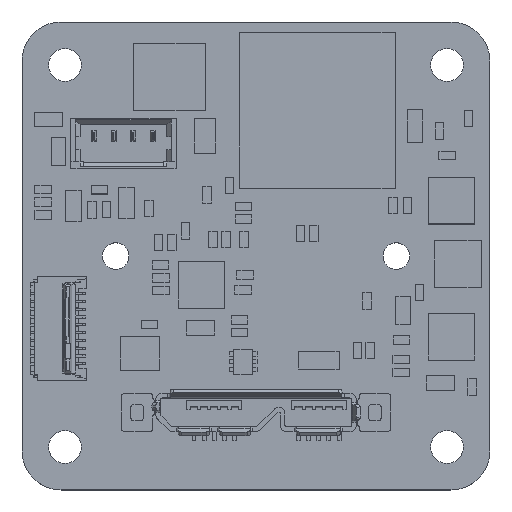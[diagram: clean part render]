
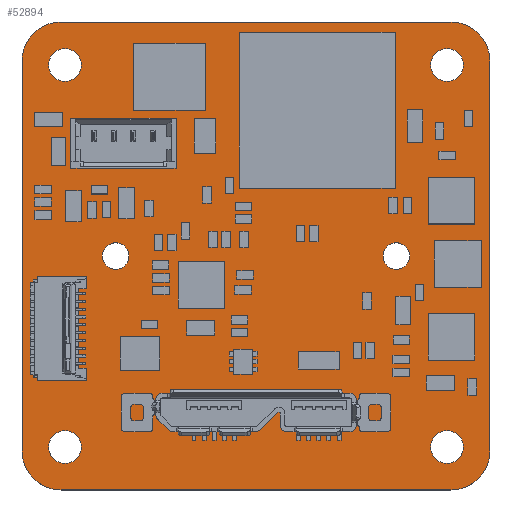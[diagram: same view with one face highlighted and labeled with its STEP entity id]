
A CAD part, top view. The second image highlights one B-rep face of the part: STEP entity #52894.
In plain terms, the highlighted planar face has unit normal (0, 0, 1).
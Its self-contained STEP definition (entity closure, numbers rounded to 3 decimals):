
#52099 = VERTEX_POINT('',#52100);
#52100 = CARTESIAN_POINT('',(0.,2.5,0.));
#52106 = EDGE_CURVE('',#52099,#52107,#52109,.T.);
#52107 = VERTEX_POINT('',#52108);
#52108 = CARTESIAN_POINT('',(2.5,0.,0.));
#52109 = CIRCLE('',#52110,2.499);
#52110 = AXIS2_PLACEMENT_3D('',#52111,#52112,#52113);
#52111 = CARTESIAN_POINT('',(2.499,2.499,0.));
#52112 = DIRECTION('',(0.,0.,1.));
#52113 = DIRECTION('',(-1.,0.,0.));
#52139 = EDGE_CURVE('',#52107,#52140,#52142,.T.);
#52140 = VERTEX_POINT('',#52141);
#52141 = CARTESIAN_POINT('',(27.5,0.,0.));
#52142 = LINE('',#52143,#52144);
#52143 = CARTESIAN_POINT('',(2.5,0.,0.));
#52144 = VECTOR('',#52145,1.);
#52145 = DIRECTION('',(1.,0.,0.));
#52170 = EDGE_CURVE('',#52140,#52171,#52173,.T.);
#52171 = VERTEX_POINT('',#52172);
#52172 = CARTESIAN_POINT('',(30.,2.5,0.));
#52173 = CIRCLE('',#52174,2.499);
#52174 = AXIS2_PLACEMENT_3D('',#52175,#52176,#52177);
#52175 = CARTESIAN_POINT('',(27.501,2.499,0.));
#52176 = DIRECTION('',(0.,0.,1.));
#52177 = DIRECTION('',(0.,-1.,0.));
#52203 = EDGE_CURVE('',#52171,#52204,#52206,.T.);
#52204 = VERTEX_POINT('',#52205);
#52205 = CARTESIAN_POINT('',(30.,27.5,0.));
#52206 = LINE('',#52207,#52208);
#52207 = CARTESIAN_POINT('',(30.,2.5,0.));
#52208 = VECTOR('',#52209,1.);
#52209 = DIRECTION('',(0.,1.,0.));
#52234 = EDGE_CURVE('',#52204,#52235,#52237,.T.);
#52235 = VERTEX_POINT('',#52236);
#52236 = CARTESIAN_POINT('',(27.5,30.,0.));
#52237 = CIRCLE('',#52238,2.499);
#52238 = AXIS2_PLACEMENT_3D('',#52239,#52240,#52241);
#52239 = CARTESIAN_POINT('',(27.501,27.501,0.));
#52240 = DIRECTION('',(0.,0.,1.));
#52241 = DIRECTION('',(1.,0.,0.));
#52267 = EDGE_CURVE('',#52235,#52268,#52270,.T.);
#52268 = VERTEX_POINT('',#52269);
#52269 = CARTESIAN_POINT('',(2.5,30.006,0.));
#52270 = LINE('',#52271,#52272);
#52271 = CARTESIAN_POINT('',(27.5,30.,0.));
#52272 = VECTOR('',#52273,1.);
#52273 = DIRECTION('',(-1.,0.,0.));
#52298 = EDGE_CURVE('',#52268,#52299,#52301,.T.);
#52299 = VERTEX_POINT('',#52300);
#52300 = CARTESIAN_POINT('',(0.,27.5,0.));
#52301 = CIRCLE('',#52302,2.496);
#52302 = AXIS2_PLACEMENT_3D('',#52303,#52304,#52305);
#52303 = CARTESIAN_POINT('',(2.496,27.51,0.));
#52304 = DIRECTION('',(0.,0.,1.));
#52305 = DIRECTION('',(0.002,1.,0.));
#52331 = EDGE_CURVE('',#52299,#52099,#52332,.T.);
#52332 = LINE('',#52333,#52334);
#52333 = CARTESIAN_POINT('',(0.,27.5,0.));
#52334 = VECTOR('',#52335,1.);
#52335 = DIRECTION('',(0.,-1.,0.));
#52355 = VERTEX_POINT('',#52356);
#52356 = CARTESIAN_POINT('',(3.8,2.75,0.));
#52362 = EDGE_CURVE('',#52355,#52355,#52363,.T.);
#52363 = CIRCLE('',#52364,1.05);
#52364 = AXIS2_PLACEMENT_3D('',#52365,#52366,#52367);
#52365 = CARTESIAN_POINT('',(2.75,2.75,0.));
#52366 = DIRECTION('',(0.,0.,1.));
#52367 = DIRECTION('',(1.,0.,0.));
#52388 = VERTEX_POINT('',#52389);
#52389 = CARTESIAN_POINT('',(6.85,15.,0.));
#52395 = EDGE_CURVE('',#52388,#52388,#52396,.T.);
#52396 = CIRCLE('',#52397,0.85);
#52397 = AXIS2_PLACEMENT_3D('',#52398,#52399,#52400);
#52398 = CARTESIAN_POINT('',(6.,15.,0.));
#52399 = DIRECTION('',(0.,0.,1.));
#52400 = DIRECTION('',(1.,0.,0.));
#52421 = VERTEX_POINT('',#52422);
#52422 = CARTESIAN_POINT('',(7.375,22.7,0.));
#52428 = EDGE_CURVE('',#52421,#52421,#52429,.T.);
#52429 = CIRCLE('',#52430,0.25);
#52430 = AXIS2_PLACEMENT_3D('',#52431,#52432,#52433);
#52431 = CARTESIAN_POINT('',(7.125,22.7,0.));
#52432 = DIRECTION('',(0.,0.,1.));
#52433 = DIRECTION('',(1.,0.,0.));
#52454 = VERTEX_POINT('',#52455);
#52455 = CARTESIAN_POINT('',(3.8,27.25,0.));
#52461 = EDGE_CURVE('',#52454,#52454,#52462,.T.);
#52462 = CIRCLE('',#52463,1.05);
#52463 = AXIS2_PLACEMENT_3D('',#52464,#52465,#52466);
#52464 = CARTESIAN_POINT('',(2.75,27.25,0.));
#52465 = DIRECTION('',(0.,0.,1.));
#52466 = DIRECTION('',(1.,0.,0.));
#52487 = VERTEX_POINT('',#52488);
#52488 = CARTESIAN_POINT('',(6.125,22.7,0.));
#52494 = EDGE_CURVE('',#52487,#52487,#52495,.T.);
#52495 = CIRCLE('',#52496,0.25);
#52496 = AXIS2_PLACEMENT_3D('',#52497,#52498,#52499);
#52497 = CARTESIAN_POINT('',(5.875,22.7,0.));
#52498 = DIRECTION('',(0.,0.,1.));
#52499 = DIRECTION('',(1.,0.,0.));
#52520 = VERTEX_POINT('',#52521);
#52521 = CARTESIAN_POINT('',(4.875,22.7,0.));
#52527 = EDGE_CURVE('',#52520,#52520,#52528,.T.);
#52528 = CIRCLE('',#52529,0.25);
#52529 = AXIS2_PLACEMENT_3D('',#52530,#52531,#52532);
#52530 = CARTESIAN_POINT('',(4.625,22.7,0.));
#52531 = DIRECTION('',(0.,0.,1.));
#52532 = DIRECTION('',(1.,0.,0.));
#52553 = VERTEX_POINT('',#52554);
#52554 = CARTESIAN_POINT('',(15.4,5.185,0.));
#52560 = EDGE_CURVE('',#52553,#52553,#52561,.T.);
#52561 = CIRCLE('',#52562,0.4);
#52562 = AXIS2_PLACEMENT_3D('',#52563,#52564,#52565);
#52563 = CARTESIAN_POINT('',(15.,5.185,0.));
#52564 = DIRECTION('',(0.,0.,1.));
#52565 = DIRECTION('',(1.,0.,0.));
#52586 = VERTEX_POINT('',#52587);
#52587 = CARTESIAN_POINT('',(28.3,2.75,0.));
#52593 = EDGE_CURVE('',#52586,#52586,#52594,.T.);
#52594 = CIRCLE('',#52595,1.05);
#52595 = AXIS2_PLACEMENT_3D('',#52596,#52597,#52598);
#52596 = CARTESIAN_POINT('',(27.25,2.75,0.));
#52597 = DIRECTION('',(0.,0.,1.));
#52598 = DIRECTION('',(1.,0.,0.));
#52619 = VERTEX_POINT('',#52620);
#52620 = CARTESIAN_POINT('',(14.425,5.85,0.));
#52626 = EDGE_CURVE('',#52619,#52627,#52629,.T.);
#52627 = VERTEX_POINT('',#52628);
#52628 = CARTESIAN_POINT('',(15.575,5.85,0.));
#52629 = LINE('',#52630,#52631);
#52630 = CARTESIAN_POINT('',(14.425,5.85,0.));
#52631 = VECTOR('',#52632,1.);
#52632 = DIRECTION('',(1.,0.,0.));
#52657 = EDGE_CURVE('',#52627,#52658,#52660,.T.);
#52658 = VERTEX_POINT('',#52659);
#52659 = CARTESIAN_POINT('',(15.575,6.3,0.));
#52660 = CIRCLE('',#52661,0.225);
#52661 = AXIS2_PLACEMENT_3D('',#52662,#52663,#52664);
#52662 = CARTESIAN_POINT('',(15.575,6.075,0.));
#52663 = DIRECTION('',(0.,0.,1.));
#52664 = DIRECTION('',(0.,-1.,0.));
#52690 = EDGE_CURVE('',#52658,#52691,#52693,.T.);
#52691 = VERTEX_POINT('',#52692);
#52692 = CARTESIAN_POINT('',(14.425,6.3,0.));
#52693 = LINE('',#52694,#52695);
#52694 = CARTESIAN_POINT('',(15.575,6.3,0.));
#52695 = VECTOR('',#52696,1.);
#52696 = DIRECTION('',(-1.,0.,0.));
#52721 = EDGE_CURVE('',#52691,#52619,#52722,.T.);
#52722 = CIRCLE('',#52723,0.225);
#52723 = AXIS2_PLACEMENT_3D('',#52724,#52725,#52726);
#52724 = CARTESIAN_POINT('',(14.425,6.075,0.));
#52725 = DIRECTION('',(0.,0.,1.));
#52726 = DIRECTION('',(0.,1.,0.));
#52747 = VERTEX_POINT('',#52748);
#52748 = CARTESIAN_POINT('',(8.625,22.7,0.));
#52754 = EDGE_CURVE('',#52747,#52747,#52755,.T.);
#52755 = CIRCLE('',#52756,0.25);
#52756 = AXIS2_PLACEMENT_3D('',#52757,#52758,#52759);
#52757 = CARTESIAN_POINT('',(8.375,22.7,0.));
#52758 = DIRECTION('',(0.,0.,1.));
#52759 = DIRECTION('',(1.,0.,0.));
#52780 = VERTEX_POINT('',#52781);
#52781 = CARTESIAN_POINT('',(24.85,15.,0.));
#52787 = EDGE_CURVE('',#52780,#52780,#52788,.T.);
#52788 = CIRCLE('',#52789,0.85);
#52789 = AXIS2_PLACEMENT_3D('',#52790,#52791,#52792);
#52790 = CARTESIAN_POINT('',(24.,15.,0.));
#52791 = DIRECTION('',(0.,0.,1.));
#52792 = DIRECTION('',(1.,0.,0.));
#52813 = VERTEX_POINT('',#52814);
#52814 = CARTESIAN_POINT('',(28.3,27.25,0.));
#52820 = EDGE_CURVE('',#52813,#52813,#52821,.T.);
#52821 = CIRCLE('',#52822,1.05);
#52822 = AXIS2_PLACEMENT_3D('',#52823,#52824,#52825);
#52823 = CARTESIAN_POINT('',(27.25,27.25,0.));
#52824 = DIRECTION('',(0.,0.,1.));
#52825 = DIRECTION('',(1.,0.,0.));
#52894 = ADVANCED_FACE('',(#52895,#52905,#52908,#52911,#52914,#52917,
    #52920,#52923,#52926,#52929,#52935,#52938,#52941),#52944,.F.);
#52895 = FACE_BOUND('',#52896,.T.);
#52896 = EDGE_LOOP('',(#52897,#52898,#52899,#52900,#52901,#52902,#52903,
    #52904));
#52897 = ORIENTED_EDGE('',*,*,#52106,.T.);
#52898 = ORIENTED_EDGE('',*,*,#52139,.T.);
#52899 = ORIENTED_EDGE('',*,*,#52170,.T.);
#52900 = ORIENTED_EDGE('',*,*,#52203,.T.);
#52901 = ORIENTED_EDGE('',*,*,#52234,.T.);
#52902 = ORIENTED_EDGE('',*,*,#52267,.T.);
#52903 = ORIENTED_EDGE('',*,*,#52298,.T.);
#52904 = ORIENTED_EDGE('',*,*,#52331,.T.);
#52905 = FACE_BOUND('',#52906,.F.);
#52906 = EDGE_LOOP('',(#52907));
#52907 = ORIENTED_EDGE('',*,*,#52362,.T.);
#52908 = FACE_BOUND('',#52909,.F.);
#52909 = EDGE_LOOP('',(#52910));
#52910 = ORIENTED_EDGE('',*,*,#52395,.T.);
#52911 = FACE_BOUND('',#52912,.F.);
#52912 = EDGE_LOOP('',(#52913));
#52913 = ORIENTED_EDGE('',*,*,#52428,.T.);
#52914 = FACE_BOUND('',#52915,.F.);
#52915 = EDGE_LOOP('',(#52916));
#52916 = ORIENTED_EDGE('',*,*,#52461,.T.);
#52917 = FACE_BOUND('',#52918,.F.);
#52918 = EDGE_LOOP('',(#52919));
#52919 = ORIENTED_EDGE('',*,*,#52494,.T.);
#52920 = FACE_BOUND('',#52921,.F.);
#52921 = EDGE_LOOP('',(#52922));
#52922 = ORIENTED_EDGE('',*,*,#52527,.T.);
#52923 = FACE_BOUND('',#52924,.F.);
#52924 = EDGE_LOOP('',(#52925));
#52925 = ORIENTED_EDGE('',*,*,#52560,.T.);
#52926 = FACE_BOUND('',#52927,.F.);
#52927 = EDGE_LOOP('',(#52928));
#52928 = ORIENTED_EDGE('',*,*,#52593,.T.);
#52929 = FACE_BOUND('',#52930,.F.);
#52930 = EDGE_LOOP('',(#52931,#52932,#52933,#52934));
#52931 = ORIENTED_EDGE('',*,*,#52626,.T.);
#52932 = ORIENTED_EDGE('',*,*,#52657,.T.);
#52933 = ORIENTED_EDGE('',*,*,#52690,.T.);
#52934 = ORIENTED_EDGE('',*,*,#52721,.T.);
#52935 = FACE_BOUND('',#52936,.F.);
#52936 = EDGE_LOOP('',(#52937));
#52937 = ORIENTED_EDGE('',*,*,#52754,.T.);
#52938 = FACE_BOUND('',#52939,.F.);
#52939 = EDGE_LOOP('',(#52940));
#52940 = ORIENTED_EDGE('',*,*,#52787,.T.);
#52941 = FACE_BOUND('',#52942,.F.);
#52942 = EDGE_LOOP('',(#52943));
#52943 = ORIENTED_EDGE('',*,*,#52820,.T.);
#52944 = PLANE('',#52945);
#52945 = AXIS2_PLACEMENT_3D('',#52946,#52947,#52948);
#52946 = CARTESIAN_POINT('',(0.,2.5,0.));
#52947 = DIRECTION('',(0.,0.,-1.));
#52948 = DIRECTION('',(-1.,0.,0.));
